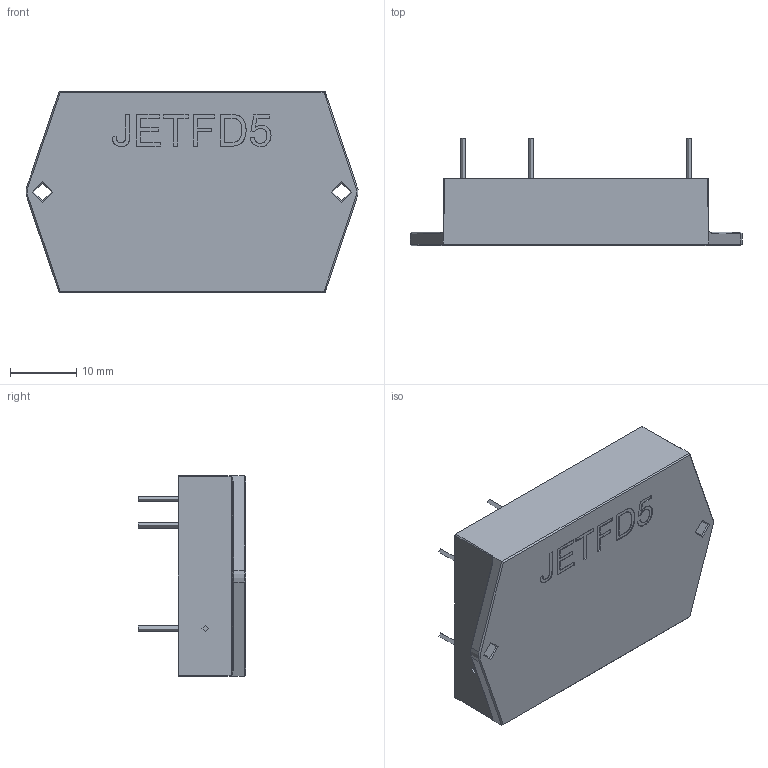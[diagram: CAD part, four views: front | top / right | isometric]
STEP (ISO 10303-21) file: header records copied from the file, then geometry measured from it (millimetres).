
FILE_DESCRIPTION(('STEP AP214'), '1');
FILE_NAME('JETFD5_flange', '', ('UNSPECIFIED'), ('UNSPECIFIED'), 'ASCON STEP Converter 1.3', 'ASCON Math Kernel', '');
FILE_SCHEMA(('AUTOMOTIVE_DESIGN { 1 0 10303 214 3 1 1}'));
Length unit declared in the file: millimetre
Products named in the file (1): JETFD5_flange
Bounding box: 49.95 x 16.15 x 30.2 mm (x, y, z)
Topology: 0 solids, 9 shells, 237 faces, 647 edges, 426 vertices
Faces by surface type: cylinder 140, plane 81, torus 8, bspline 8
Full cylindrical faces by diameter (mm): 0.4 x4, 0.8 x5, 1 x1, 2.7 x2
Entity records: 9563 total; most frequent: CARTESIAN_POINT 1569, DIRECTION 1327, ORIENTED_EDGE 1246, EDGE_CURVE 623, AXIS2_PLACEMENT_3D 498, VERTEX_POINT 414, LINE 331, VECTOR 331
